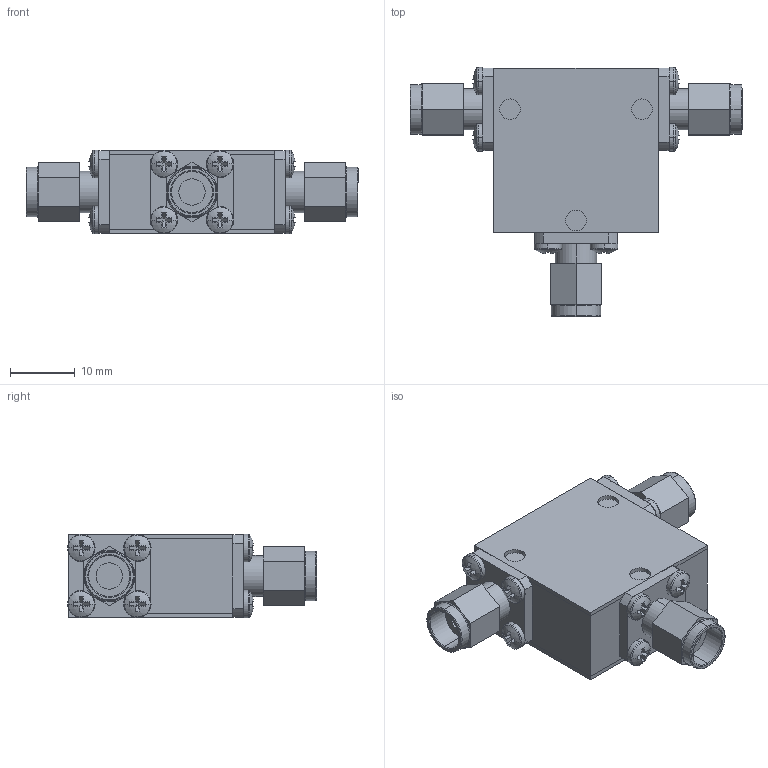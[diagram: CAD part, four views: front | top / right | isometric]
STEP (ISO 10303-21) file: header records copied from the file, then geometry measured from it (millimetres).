
FILE_DESCRIPTION (( 'STEP AP214' ), '1' );
FILE_NAME ('Package 3 Circ MMM.step', '2021-12-01T21:00:11', ( '' ), ( '' ), 'SwSTEP 2.0', 'SolidWorks 2016', '' );
FILE_SCHEMA (( 'AUTOMOTIVE_DESIGN' ));
Length unit declared in the file: inch
Products named in the file (5): Package 3 Circ MMM; Package Size 3; pan cross head_ai_CR-PHMS 0.086-56x0.125x0.125-N; Delta SMA-Male; Package 3
Assembly tree (17 placements, depth 2):
  Package 3 Circ MMM
    Package 3
    Package Size 3
    pan cross head_ai_CR-PHMS 0.086-56x0.125x0.125-N  x12
    Delta SMA-Male  x3
Bounding box: 51.16 x 38.37 x 12.88 mm (x, y, z)
Volume: 10054.4 mm3; surface area: 9116.7 mm2
Topology: 17 solids, 17 shells, 445 faces, 1014 edges, 624 vertices
Faces by surface type: plane 259, cylinder 120, torus 42, sphere 24
Entity records: 3248 total; most frequent: DIRECTION 584, CARTESIAN_POINT 504, ORIENTED_EDGE 472, EDGE_CURVE 236, AXIS2_PLACEMENT_3D 230, VERTEX_POINT 150, VECTOR 124, EDGE_LOOP 124
